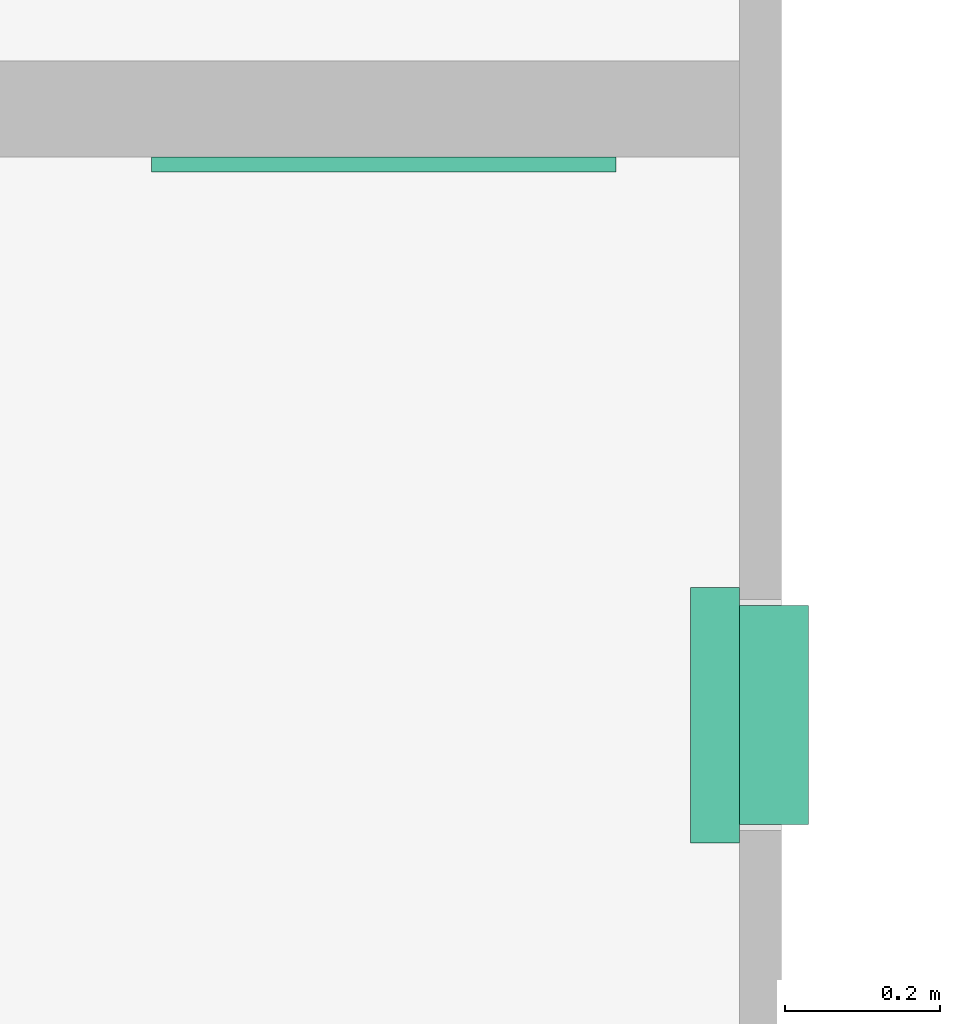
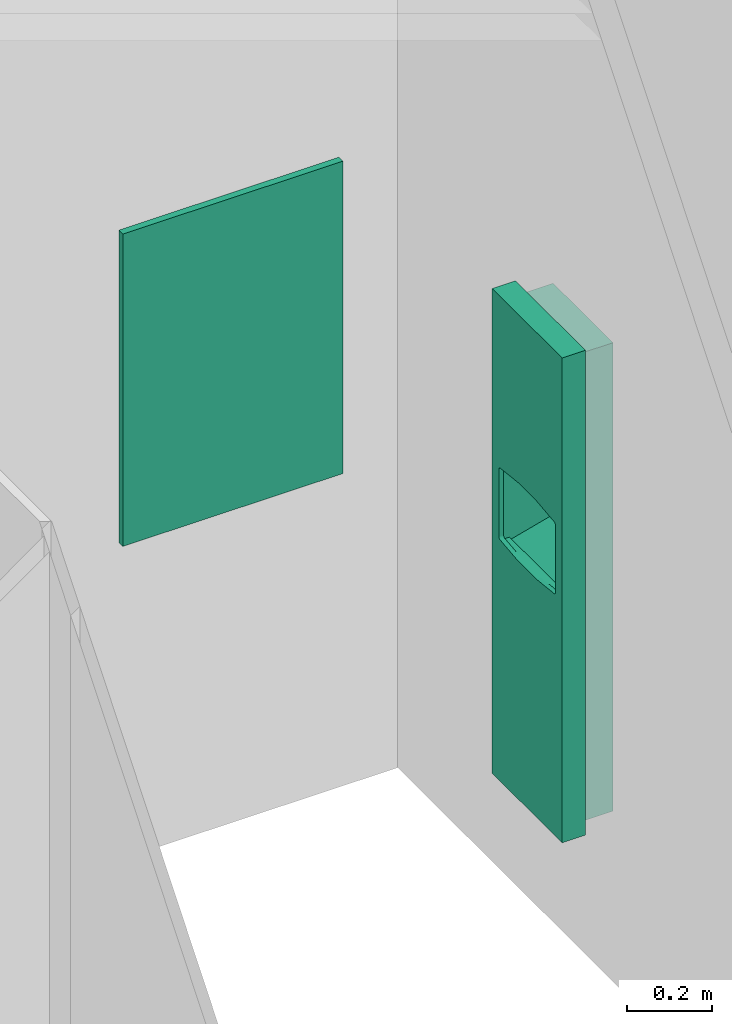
# One storey, part 35 of 47: 2 flow terminals.
"""IFC2X3 building model written with IfcOpenShell, lengths in metres."""

from ifc_helpers import new_model, entity, si_unit, converted_unit, frame, origin, origin_2d_with_axis, place, context, project, spatial, rectangle, extrude, face_set, surface_model, source, transform, mapped, type_object, type_shapes, element, save


model = new_model("IFC2X3")

# Units and contexts
model_context = context("Model", 3, precision=1e-09, world=origin())
plan_context = context("Plan", 3, precision=1e-09, world=origin())
ifc_project = project(units=[si_unit("LENGTHUNIT", "METRE"), si_unit("AREAUNIT", "SQUARE_METRE"), si_unit("VOLUMEUNIT", "CUBIC_METRE"), converted_unit("PLANEANGLEUNIT", "DEGREE", entity("IfcRatioMeasure", 0.01745329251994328), si_unit("PLANEANGLEUNIT", "RADIAN"), dimensions=[0, 0, 0, 0, 0, 0, 0]), si_unit("TIMEUNIT", "SECOND")], contexts=[model_context, plan_context])

# Site, building, storey, space
site_placement = place(None, origin())
site = spatial("IfcSite", under=ifc_project, at=site_placement, Name="Default", CompositionType="ELEMENT")
building_placement = place(site_placement, origin())
building = spatial("IfcBuilding", under=site, at=building_placement, CompositionType="ELEMENT")
storey_placement = place(building_placement, frame((0.0, 0.0, 4.570000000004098)))
storey = spatial("IfcBuildingStorey", under=building, at=storey_placement, Name="Second Floor", CompositionType="ELEMENT", Elevation=4.570000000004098)
space_placement = place(storey_placement, origin())
space = spatial("IfcSpace", under=storey, at=space_placement, Name="2C24", CompositionType="ELEMENT", InteriorOrExteriorSpace="INTERNAL")

# Flow terminals
sanitary_terminal_type_1 = type_object("IfcSanitaryTerminalType", Name="Mirror 600mm x 900mm", PredefinedType="NOTDEFINED")
shared_shape_1 = source(origin(), model_context, "Body", "SweptSolid", [
    extrude(rectangle(XDim=0.01905, YDim=0.5999999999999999, at=origin_2d_with_axis()), frame((0.02447030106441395, 0.071525, 1.0), z_axis=(0.0, 0.0, 1.0), x_axis=(0.0, -1.0, 0.0)), (0.0, 0.0, 1.0), 0.8999999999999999),
])
type_shapes(sanitary_terminal_type_1, [shared_shape_1])
flow_terminal_1_placement = place(space_placement, frame((-20.72552969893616, 41.53243871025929, -0.08499999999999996), z_axis=(0.0, 0.0, 1.0), x_axis=(-1.0, 0.0, 0.0)))
element("IfcFlowTerminal", 1, at=flow_terminal_1_placement, inside=space, type_object=sanitary_terminal_type_1, Name="M_Mirror:Mirror 600mm x 900mm:Mirror 600mm x 900mm", ObjectType="Mirror 600mm x 900mm", context=model_context, shape_type="MappedRepresentation", body=[
    mapped(shared_shape_1, transform((0.0, 0.0, 0.0), scale=1.0)),
])
sanitary_terminal_type_2 = type_object("IfcSanitaryTerminalType", Name="Semi-Recessed", PredefinedType="NOTDEFINED")
shared_shape_2 = source(origin(), model_context, "Body", "SurfaceModel", [
    surface_model("IfcFaceBasedSurfaceModel", [(0.3047999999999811, 1.371600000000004, 0.006350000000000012), (0.02539999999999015, 1.371600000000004, 0.006350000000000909), (0.02539999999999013, 0.02540000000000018, 0.006350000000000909), (0.3047999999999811, 0.02540000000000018, 0.006350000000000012), (0.3047999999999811, 1.371600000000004, 0.0), (0.02539999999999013, 1.371600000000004, 0.0), (0.02539999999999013, 0.02540000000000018, 0.0), (0.3047999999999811, 0.02540000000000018, 0.0), (0.3047999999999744, 0.8683625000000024, 0.0314087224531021), (0.304799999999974, 0.8683625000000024, 0.0), (0.304799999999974, 1.371600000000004, 0.0), (0.3047999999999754, 1.371600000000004, 0.1396999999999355), (0.3047999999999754, 0.9274310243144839, 0.139699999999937), (0.3047999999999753, 0.9028355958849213, 0.1191121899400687), (0.304799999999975, 0.8840898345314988, 0.09308548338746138), (0.3047999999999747, 0.8723562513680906, 0.06323391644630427), (0.02539999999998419, 0.8683625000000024, 0.03140872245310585), (0.02539999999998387, 0.8683625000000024, 0.0), (0.02539999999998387, 1.371600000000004, 0.0), (0.02539999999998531, 1.371600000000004, 0.1396999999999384), (0.02539999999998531, 0.9274310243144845, 0.1396999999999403), (0.02539999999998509, 0.9028355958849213, 0.1191121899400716), (0.02539999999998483, 0.8840898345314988, 0.09308548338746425), (0.02539999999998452, 0.8723562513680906, 0.06323391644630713), (0.1650999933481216, 0.8971245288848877, 0.1125374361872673), (0.244423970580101, 0.8850007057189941, 0.0947267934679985), (0.3048000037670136, 0.8934627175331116, 0.1060988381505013), (0.225727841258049, 0.8897196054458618, 0.1024402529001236), (0.1240624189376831, 0.8936511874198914, 0.1080563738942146), (0.1443802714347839, 0.89626145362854, 0.1114614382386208), (0.02539999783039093, 0.8934627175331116, 0.1060988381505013), (0.2975995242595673, 0.8728225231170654, 0.06500939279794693), (0.2961554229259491, 0.8724397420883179, 0.06352298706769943), (0.08576729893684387, 0.8849983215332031, 0.09472260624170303), (0.05923719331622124, 0.8781034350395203, 0.0805450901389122), (0.06810294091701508, 0.8800443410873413, 0.08500713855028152), (0.02539999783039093, 0.8811564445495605, 0.08562259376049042), (0.03954862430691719, 0.8766331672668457, 0.07681932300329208), (0.04958875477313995, 0.8769928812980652, 0.07776296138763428), (0.02539999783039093, 0.8782230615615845, 0.07815969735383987), (0.03264534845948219, 0.875198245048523, 0.07281118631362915), (0.02539999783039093, 0.8767563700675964, 0.0744282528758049), (0.02539999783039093, 0.87602299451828, 0.07256253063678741), (0.2946777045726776, 0.8762261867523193, 0.07572414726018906), (0.3048000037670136, 0.8767563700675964, 0.0744282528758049), (0.3048000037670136, 0.8774896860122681, 0.07629397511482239), (0.2906513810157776, 0.8717893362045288, 0.0609215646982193), (0.3048000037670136, 0.871357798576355, 0.05527761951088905), (0.3048000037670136, 0.8718570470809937, 0.05925576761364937), (0.02539999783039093, 0.874556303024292, 0.06883108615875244), (0.03170676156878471, 0.8735430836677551, 0.0675705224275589), (0.03171554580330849, 0.8739543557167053, 0.06892137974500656), (0.104461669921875, 0.889717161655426, 0.1024366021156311), (0.02539999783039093, 0.8752896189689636, 0.07069680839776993), (0.03172433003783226, 0.8743656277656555, 0.07027223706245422), (0.03218483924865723, 0.8747819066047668, 0.07154171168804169), (0.185808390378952, 0.8962624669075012, 0.1114626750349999), (0.3048000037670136, 0.8703593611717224, 0.04732131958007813), (0.2280749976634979, 0.8709259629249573, 0.05697767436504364), (0.2061262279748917, 0.8936530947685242, 0.1080589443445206), (0.3048000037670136, 0.8752896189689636, 0.07069680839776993), (0.297547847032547, 0.8752022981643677, 0.07282306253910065), (0.2980738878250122, 0.8745774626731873, 0.0708826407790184), (0.2985999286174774, 0.8739525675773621, 0.06894221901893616), (0.3048000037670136, 0.874556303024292, 0.06883108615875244), (0.2709419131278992, 0.8781068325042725, 0.08055329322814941), (0.3048000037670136, 0.8811564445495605, 0.08562259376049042), (0.2620970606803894, 0.8800443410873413, 0.08500713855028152), (0.2805894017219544, 0.8769944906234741, 0.07776710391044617), (0.3048000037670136, 0.8782230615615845, 0.07815969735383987), (0.03435983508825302, 0.8722586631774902, 0.06284872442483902), (0.02539999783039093, 0.872106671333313, 0.06124484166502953), (0.0367727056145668, 0.8719081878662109, 0.06142202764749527), (0.2906513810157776, 0.8766331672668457, 0.07681932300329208), (0.02539999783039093, 0.8718570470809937, 0.05925576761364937), (0.3048000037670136, 0.8738229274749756, 0.06696536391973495), (0.2980997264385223, 0.8733875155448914, 0.06697580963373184), (0.3048000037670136, 0.872106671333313, 0.06124484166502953), (0.2947112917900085, 0.8720570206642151, 0.06203658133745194), (0.02539999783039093, 0.8738229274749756, 0.06696536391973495), (0.3048000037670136, 0.873089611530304, 0.06509964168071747), (0.02539999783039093, 0.8774896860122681, 0.07629397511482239), (0.03438528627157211, 0.8759323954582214, 0.07491400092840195), (0.03677724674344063, 0.8764464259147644, 0.07632055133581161), (0.03261014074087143, 0.8728178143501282, 0.0649920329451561), (0.02539999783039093, 0.8703593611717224, 0.04732131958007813), (0.1650999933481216, 0.8683624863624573, 0.03140872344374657), (0.03954862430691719, 0.8717893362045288, 0.0609215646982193), (0.1021250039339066, 0.8709259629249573, 0.05697767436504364), (0.02539999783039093, 0.871357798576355, 0.05527761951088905), (0.02539999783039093, 0.873089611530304, 0.06509964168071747), (0.2961127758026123, 0.8757142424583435, 0.07427360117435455), (0.3048000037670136, 0.87602299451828, 0.07256253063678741), (0.1650999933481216, 0.8701865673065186, 0.05300865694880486), (0.03954862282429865, 0.9617593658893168, 0.06092156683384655), (0.1650999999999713, 0.9617593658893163, 0.05300865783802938), (0.2906513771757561, 0.9617593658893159, 0.06092156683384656), (0.2927086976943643, 0.9617593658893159, 0.06119241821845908), (0.2946258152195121, 0.9617593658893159, 0.06198651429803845), (0.2962720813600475, 0.9617593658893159, 0.06324973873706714), (0.2975353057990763, 0.9617593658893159, 0.06489600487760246), (0.2983294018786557, 0.9617593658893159, 0.06681312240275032), (0.2986002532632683, 0.9617593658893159, 0.06887044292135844), (0.2983294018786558, 0.9617593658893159, 0.07092776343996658), (0.2975353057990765, 0.9617593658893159, 0.0728448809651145), (0.2962720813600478, 0.9617593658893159, 0.07449114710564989), (0.2946258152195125, 0.9617593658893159, 0.07575437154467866), (0.2927086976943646, 0.9617593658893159, 0.07654846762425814), (0.2906513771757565, 0.9617593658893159, 0.07681931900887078), (0.2806776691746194, 0.9617593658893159, 0.07775040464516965), (0.2710486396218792, 0.9617593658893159, 0.0805114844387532), (0.2620970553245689, 0.9617593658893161, 0.0850071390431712), (0.2316919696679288, 0.9617593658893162, 0.1002429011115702), (0.1989754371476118, 0.9617593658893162, 0.1095287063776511), (0.1651000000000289, 0.9617593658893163, 0.1125374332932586), (0.1312245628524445, 0.9617593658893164, 0.109528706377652), (0.09850803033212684, 0.9617593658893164, 0.1002429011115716), (0.06810294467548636, 0.9617593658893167, 0.08500713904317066), (0.05915136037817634, 0.9617593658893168, 0.08051148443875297), (0.04952233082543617, 0.9617593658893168, 0.07775040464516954), (0.03954862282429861, 0.9617593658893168, 0.07681931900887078), (0.03749130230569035, 0.9617593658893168, 0.0765484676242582), (0.03557418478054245, 0.9617593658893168, 0.07575437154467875), (0.03392791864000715, 0.9617593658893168, 0.07449114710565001), (0.03266469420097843, 0.9617593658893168, 0.07284488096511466), (0.03187059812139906, 0.9617593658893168, 0.07092776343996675), (0.03159974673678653, 0.9617593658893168, 0.06887044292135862), (0.03187059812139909, 0.9617593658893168, 0.06681312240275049), (0.03266469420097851, 0.9617593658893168, 0.0648960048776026), (0.03392791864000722, 0.9617593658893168, 0.06324973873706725), (0.03557418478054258, 0.9617593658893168, 0.06198651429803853), (0.03749130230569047, 0.9617593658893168, 0.06119241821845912), (0.3302000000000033, 1.397000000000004, 0.1523999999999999), (0.0, 1.397000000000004, 0.152400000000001), (0.0, 0.0, 0.152400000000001), (0.3302000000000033, 0.0, 0.1523999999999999), (0.03175000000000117, 0.7016793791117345, 0.1524000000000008), (0.03175000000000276, 0.8960819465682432, 0.1524000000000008), (0.03192255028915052, 0.8975521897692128, 0.1524000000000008), (0.03243082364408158, 0.8989425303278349, 0.1524000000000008), (0.03324719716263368, 0.9001774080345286, 0.1524000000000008), (0.03432730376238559, 0.9011897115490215, 0.1524000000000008), (0.03561244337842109, 0.9019244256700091, 0.1524000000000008), (0.03703277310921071, 0.9023416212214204, 0.1524000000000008), (0.1222300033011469, 0.9119737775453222, 0.1524000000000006), (0.2079699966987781, 0.911973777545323, 0.1524000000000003), (0.2931672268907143, 0.902341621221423, 0.1524), (0.2945875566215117, 0.9019244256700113, 0.1524), (0.2958726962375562, 0.9011897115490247, 0.1524), (0.2969528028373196, 0.9001774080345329, 0.1524), (0.297769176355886, 0.8989425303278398, 0.1524), (0.2982774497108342, 0.8975521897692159, 0.1524), (0.2984500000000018, 0.8960819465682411, 0.1524), (0.2984500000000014, 0.7016793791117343, 0.1524), (0.2982774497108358, 0.7002091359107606, 0.1524), (0.2977691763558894, 0.6988187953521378, 0.1524), (0.2969528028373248, 0.697583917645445, 0.1524), (0.2958726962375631, 0.6965716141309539, 0.1524), (0.29458755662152, 0.6958369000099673, 0.1524), (0.2931672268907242, 0.6954197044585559, 0.1524), (0.2079699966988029, 0.6857875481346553, 0.1524000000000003), (0.1222300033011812, 0.6857875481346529, 0.1524000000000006), (0.03703277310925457, 0.6954197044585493, 0.1524000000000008), (0.03561244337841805, 0.6958369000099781, 0.1524000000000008), (0.0343273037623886, 0.6965716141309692, 0.1524000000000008), (0.03324719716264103, 0.6975839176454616, 0.1524000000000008), (0.03243082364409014, 0.698818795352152, 0.1524000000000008), (0.03192255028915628, 0.7002091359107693, 0.1524000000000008), (0.3063874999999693, 1.373187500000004, 0.0), (0.02381249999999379, 1.373187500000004, 0.0), (0.02381249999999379, 0.02381250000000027, 0.0), (0.3063874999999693, 0.02381250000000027, 0.0), (0.3047999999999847, 1.371600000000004, 0.0), (0.3047999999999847, 0.02540000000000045, 0.0), (0.02539999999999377, 0.02540000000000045, 0.0), (0.02539999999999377, 1.371600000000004, 0.0), (0.304799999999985, 1.371600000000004, 0.08889999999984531), (0.3047999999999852, 1.371600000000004, 0.1396999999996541), (0.3047999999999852, 0.02540000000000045, 0.1396999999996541), (0.304799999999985, 0.02540000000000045, 0.08889999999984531), (0.02539999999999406, 0.02540000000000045, 0.08889999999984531), (0.02539999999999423, 0.02540000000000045, 0.139699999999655), (0.02539999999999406, 1.371600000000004, 0.08889999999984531), (0.02539999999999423, 1.371600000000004, 0.139699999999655), (0.02381249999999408, 1.373187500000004, 0.08889999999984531), (0.3063874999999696, 1.373187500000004, 0.08889999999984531), (0.02381249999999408, 0.02381250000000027, 0.08889999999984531), (0.3063874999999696, 0.02381250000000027, 0.08889999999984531), (0.3302000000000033, 1.397000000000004, 0.08889999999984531), (0.0, 1.397000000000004, 0.08889999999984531), (0.0, 0.0, 0.08889999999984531), (0.3302000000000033, 0.0, 0.08889999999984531), (0.3302000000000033, 1.397000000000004, 0.1396999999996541), (0.0, 1.397000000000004, 0.1396999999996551), (0.0, 0.0, 0.1396999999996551), (0.3302000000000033, 0.0, 0.1396999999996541), (0.0317500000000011, 0.7016793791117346, 0.139699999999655), (0.03175000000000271, 0.8960819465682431, 0.139699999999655), (0.03192255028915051, 0.8975521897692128, 0.139699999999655), (0.03243082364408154, 0.8989425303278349, 0.139699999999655), (0.03324719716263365, 0.9001774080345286, 0.139699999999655), (0.03432730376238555, 0.9011897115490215, 0.139699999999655), (0.03561244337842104, 0.9019244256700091, 0.139699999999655), (0.03703277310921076, 0.9023416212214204, 0.139699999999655), (0.1222300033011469, 0.9119737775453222, 0.1396999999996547), (0.207969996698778, 0.911973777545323, 0.1396999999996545), (0.2931672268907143, 0.902341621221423, 0.1396999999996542), (0.2945875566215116, 0.9019244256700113, 0.1396999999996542), (0.2958726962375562, 0.9011897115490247, 0.1396999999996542), (0.2969528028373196, 0.9001774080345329, 0.1396999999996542), (0.2977691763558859, 0.8989425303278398, 0.1396999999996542), (0.2982774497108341, 0.8975521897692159, 0.1396999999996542), (0.2984500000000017, 0.8960819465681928, 0.1396999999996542), (0.2984500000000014, 0.7016793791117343, 0.1396999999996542), (0.2982774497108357, 0.7002091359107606, 0.1396999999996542), (0.2977691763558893, 0.6988187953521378, 0.1396999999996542), (0.2969528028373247, 0.697583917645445, 0.1396999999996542), (0.295872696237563, 0.6965716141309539, 0.1396999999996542), (0.29458755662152, 0.6958369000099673, 0.1396999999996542), (0.2931672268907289, 0.6954197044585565, 0.1396999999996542), (0.2079699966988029, 0.6857875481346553, 0.1396999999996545), (0.1222300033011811, 0.6857875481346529, 0.1396999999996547), (0.0370327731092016, 0.6954197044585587, 0.139699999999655), (0.03561244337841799, 0.6958369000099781, 0.139699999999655), (0.03432730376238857, 0.6965716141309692, 0.139699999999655), (0.03324719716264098, 0.6975839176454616, 0.139699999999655), (0.03243082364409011, 0.698818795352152, 0.139699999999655), (0.03192255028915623, 0.7002091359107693, 0.139699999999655), (0.02698749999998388, 0.6774923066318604, 0.1206361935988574), (0.02698749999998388, 0.6858000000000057, 0.1206361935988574), (0.02698749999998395, 0.6858000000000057, 0.1397000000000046), (0.02698749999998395, 0.0253999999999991, 0.1397000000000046), (0.02698749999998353, 0.0253999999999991, 0.007937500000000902), (0.02698749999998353, 0.7076898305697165, 0.007937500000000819), (0.3032124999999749, 0.6774923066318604, 0.1206361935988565), (0.3032124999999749, 0.6858000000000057, 0.1206361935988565), (0.3032124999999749, 0.6858000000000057, 0.1397000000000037), (0.3032124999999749, 0.0253999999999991, 0.1397000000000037), (0.3032124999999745, 0.0253999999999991, 0.007937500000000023), (0.3032124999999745, 0.7076898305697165, 0.007937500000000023)], [face_set([[[0, 1, 2, 3]], [[4, 5, 6, 7]], [[1, 0, 4, 5]], [[2, 6, 5, 1]], [[3, 7, 6, 2]], [[0, 3, 7, 4]]]), face_set([[[8, 9, 10, 11, 12, 13, 14, 15]], [[16, 17, 18, 19, 20, 21, 22, 23]], [[9, 8, 16, 17]], [[10, 18, 17, 9]], [[11, 19, 18, 10]], [[12, 11, 19, 20]], [[24, 20, 21]], [[25, 26, 27]], [[28, 29, 21]], [[28, 21, 30]], [[15, 31, 32]], [[22, 33, 30]], [[24, 21, 29]], [[34, 35, 36]], [[37, 38, 39]], [[40, 41, 42]], [[39, 38, 34]], [[22, 35, 33]], [[39, 34, 36]], [[43, 44, 45]], [[46, 47, 48]], [[49, 50, 51]], [[33, 52, 30]], [[53, 54, 55]], [[24, 56, 13]], [[57, 47, 58]], [[24, 13, 12]], [[13, 56, 59]], [[59, 27, 26]], [[60, 61, 62]], [[62, 63, 64]], [[24, 12, 20]], [[55, 42, 53]], [[65, 66, 67]], [[25, 67, 14]], [[25, 14, 26]], [[65, 68, 69]], [[66, 65, 69]], [[70, 71, 72]], [[69, 68, 73]], [[72, 71, 74]], [[26, 13, 59]], [[54, 53, 49]], [[64, 60, 62]], [[75, 63, 76]], [[46, 77, 78]], [[79, 50, 49]], [[80, 76, 31]], [[39, 81, 37]], [[41, 82, 81]], [[49, 51, 54]], [[81, 82, 83]], [[40, 82, 41]], [[70, 84, 23]], [[84, 50, 79]], [[85, 16, 86]], [[28, 30, 52]], [[70, 23, 71]], [[87, 72, 74]], [[85, 88, 89]], [[87, 89, 88]], [[74, 89, 87]], [[84, 90, 23]], [[58, 47, 46]], [[35, 22, 36]], [[63, 75, 64]], [[91, 61, 92]], [[45, 73, 43]], [[80, 75, 76]], [[61, 60, 92]], [[15, 32, 78]], [[45, 69, 73]], [[92, 44, 91]], [[66, 14, 67]], [[84, 79, 90]], [[85, 93, 88]], [[86, 57, 93]], [[31, 15, 80]], [[77, 15, 78]], [[42, 55, 40]], [[58, 93, 57]], [[77, 46, 48]], [[8, 57, 86]], [[37, 81, 83]], [[44, 43, 91]], [[85, 86, 93]], [[94, 95, 96, 97, 98, 99, 100, 101, 102, 103, 104, 105, 106, 107, 108, 109, 110, 111, 112, 113, 114, 115, 116, 117, 118, 119, 120, 121, 122, 123, 124, 125, 126, 127, 128, 129, 130, 131]], [[95, 94, 87, 88, 93]], [[96, 95, 93, 58, 46]], [[46, 96, 97]], [[78, 98, 99]], [[97, 98, 78]], [[99, 100, 31]], [[46, 97, 78]], [[63, 31, 101]], [[31, 78, 99]], [[63, 101, 102]], [[101, 31, 100]], [[61, 104, 105]], [[43, 106, 107]], [[105, 106, 43]], [[73, 107, 108]], [[63, 103, 61]], [[103, 63, 102]], [[61, 103, 104]], [[61, 105, 43]], [[107, 73, 43]], [[108, 68, 73]], [[68, 108, 109]], [[109, 65, 68]], [[110, 67, 65]], [[67, 110, 111]], [[109, 110, 65]], [[111, 112, 25]], [[25, 67, 111]], [[27, 25, 112]], [[112, 59, 27]], [[113, 114, 56]], [[56, 59, 113]], [[24, 56, 114]], [[113, 59, 112]], [[114, 115, 29]], [[29, 24, 114]], [[28, 29, 115]], [[115, 116, 28]], [[116, 117, 33]], [[33, 52, 116]], [[35, 33, 117]], [[116, 52, 28]], [[118, 34, 35]], [[35, 117, 118]], [[118, 119, 34]], [[120, 37, 38]], [[38, 119, 120]], [[34, 119, 38]], [[37, 120, 121]], [[82, 122, 123]], [[121, 122, 83]], [[123, 124, 40]], [[37, 121, 83]], [[83, 122, 82]], [[40, 125, 54]], [[40, 82, 123]], [[54, 125, 126]], [[40, 124, 125]], [[84, 127, 128]], [[129, 84, 128]], [[72, 130, 131]], [[129, 130, 70]], [[87, 131, 94]], [[127, 50, 126]], [[127, 84, 50]], [[126, 50, 54]], [[70, 84, 129]], [[130, 72, 70]], [[131, 87, 72]]]), face_set([[[132, 133, 134, 135], [136, 137, 138, 139, 140, 141, 142, 143, 144, 145, 146, 147, 148, 149, 150, 151, 152, 153, 154, 155, 156, 157, 158, 159, 160, 161, 162, 163, 164, 165, 166, 167]], [[168, 169, 170, 171], [172, 173, 174, 175]], [[172, 176, 177, 178, 179, 173]], [[173, 174, 180, 181, 178, 179]], [[174, 175, 182, 183, 181, 180]], [[175, 182, 183, 177, 176, 172]], [[168, 169, 184, 185]], [[169, 184, 186, 170]], [[170, 186, 187, 171]], [[171, 168, 185, 187]], [[188, 189, 190, 191], [185, 187, 186, 184]], [[133, 132, 192, 188, 189, 193]], [[134, 133, 193, 189, 190, 194]], [[135, 134, 194, 190, 191, 195]], [[132, 135, 195, 191, 188, 192]], [[177, 183, 181, 178], [196, 197, 198, 199, 200, 201, 202, 203, 204, 205, 206, 207, 208, 209, 210, 211, 212, 213, 214, 215, 216, 217, 218, 219, 220, 221, 222, 223, 224, 225, 226, 227]], [[137, 136, 196, 197]], [[198, 197, 137, 138]], [[199, 198, 138, 139]], [[139, 140, 200, 199]], [[202, 201, 141, 142]], [[203, 202, 142, 143]], [[140, 141, 201, 200]], [[203, 143, 144, 204]], [[145, 205, 204, 144]], [[205, 145, 146, 206]], [[207, 206, 146, 147]], [[208, 207, 147, 148]], [[148, 149, 209, 208]], [[212, 211, 151, 152]], [[211, 210, 150, 151]], [[149, 150, 210, 209]], [[153, 213, 212, 152]], [[214, 213, 153, 154]], [[215, 214, 154, 155]], [[155, 156, 216, 215]], [[218, 217, 157, 158]], [[219, 218, 158, 159]], [[156, 157, 217, 216]], [[219, 159, 160, 220]], [[161, 221, 220, 160]], [[221, 161, 162, 222]], [[223, 222, 162, 163]], [[224, 223, 163, 164]], [[164, 165, 225, 224]], [[227, 226, 166, 167]], [[196, 227, 167, 136]], [[165, 166, 226, 225]]]), face_set([[[228, 229, 230, 231, 232, 233]], [[234, 235, 236, 237, 238, 239]], [[233, 228, 234, 239]], [[232, 238, 239, 233]], [[231, 237, 238, 232]], [[230, 231, 237, 236]], [[229, 230, 236, 235]], [[228, 234, 235, 229]]])]),
])
type_shapes(sanitary_terminal_type_2, [shared_shape_2])
flow_terminal_2_placement = place(space_placement, frame((-20.20110000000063, 40.91463871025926, 0.3428999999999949), z_axis=(-1.0, 0.0, 0.0), x_axis=(0.0, -1.0, 0.0)))
element("IfcFlowTerminal", 2, at=flow_terminal_2_placement, inside=space, type_object=sanitary_terminal_type_2, Name="M_Towel Dispensers - receptical:Semi-Recessed:Semi-Recessed", ObjectType="Semi-Recessed", context=model_context, shape_type="MappedRepresentation", body=[
    mapped(shared_shape_2, transform((0.0, 0.0, 0.0), scale=1.0)),
])

save(model, "model.ifc")
